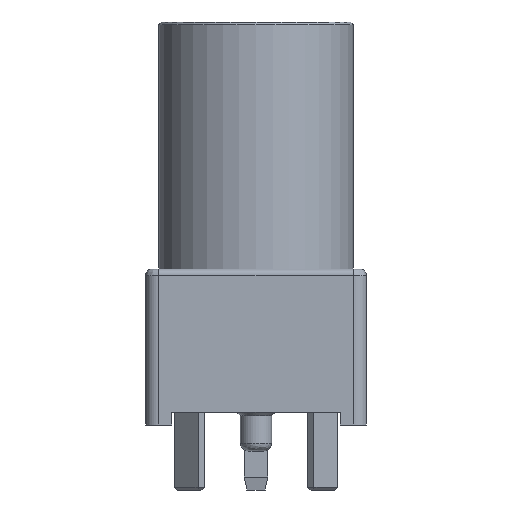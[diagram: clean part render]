
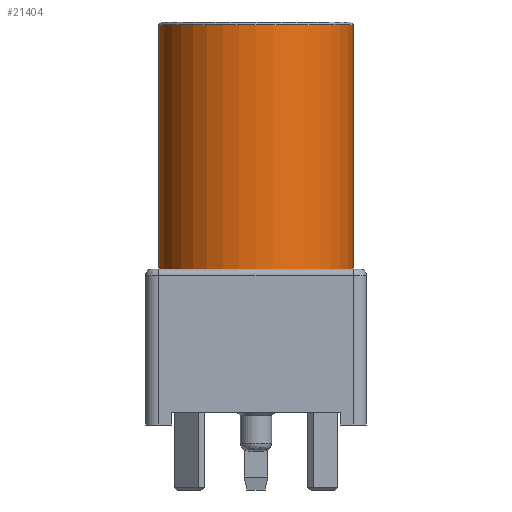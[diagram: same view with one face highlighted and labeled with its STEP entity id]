
A CAD part, front view. The second image highlights one B-rep face of the part: STEP entity #21404.
In plain terms, the highlighted cylindrical face has radius 3.75 mm (diameter 7.5 mm), a partial arc.
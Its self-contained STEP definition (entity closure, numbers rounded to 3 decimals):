
#176=CARTESIAN_POINT('',(0.,0.,6.));
#177=DIRECTION('',(0.,0.,1.));
#178=DIRECTION('',(-1.,0.,0.));
#179=AXIS2_PLACEMENT_3D('',#176,#177,#178);
#7092=CARTESIAN_POINT('',(0.,0.,15.4));
#7093=DIRECTION('',(0.,0.,1.));
#7094=DIRECTION('',(-1.,0.,0.));
#7095=AXIS2_PLACEMENT_3D('',#7092,#7093,#7094);
#7097=DIRECTION('',(0.,0.,-1.));
#7098=VECTOR('',#7097,9.4);
#7099=CARTESIAN_POINT('',(3.75,0.,15.4));
#7100=LINE('',#7099,#7098);
#7101=DIRECTION('',(0.,0.,1.));
#7102=VECTOR('',#7101,9.4);
#7103=CARTESIAN_POINT('',(-3.75,0.,6.));
#7104=LINE('',#7103,#7102);
#7377=CARTESIAN_POINT('',(-3.75,0.,6.));
#7378=VERTEX_POINT('',#7377);
#7379=CARTESIAN_POINT('',(3.75,0.,6.));
#7380=VERTEX_POINT('',#7379);
#9124=CARTESIAN_POINT('',(-3.75,0.,
15.4));
#9125=VERTEX_POINT('',#9124);
#9126=CARTESIAN_POINT('',(3.75,0.,15.4));
#9127=VERTEX_POINT('',#9126);
#21393=CARTESIAN_POINT('',(0.,0.,10.7));
#21394=DIRECTION('',(0.,0.,1.));
#21395=DIRECTION('',(-1.,0.,0.));
#21396=AXIS2_PLACEMENT_3D('',#21393,#21394,#21395);
#21397=CYLINDRICAL_SURFACE('',#21396,3.75);
#21398=ORIENTED_EDGE('',*,*,#21333,.T.);
#21399=ORIENTED_EDGE('',*,*,#21381,.T.);
#21400=ORIENTED_EDGE('',*,*,#9179,.F.);
#21401=ORIENTED_EDGE('',*,*,#21373,.T.);
#21402=EDGE_LOOP('',(#21398,#21399,#21400,#21401));
#21403=FACE_OUTER_BOUND('',#21402,.F.);
#180=CIRCLE('',#179,3.75);
#7096=CIRCLE('',#7095,3.75);
#9179=EDGE_CURVE('',#7378,#7380,#180,.T.);
#21333=EDGE_CURVE('',#9125,#9127,#7096,.T.);
#21373=EDGE_CURVE('',#7378,#9125,#7104,.T.);
#21381=EDGE_CURVE('',#9127,#7380,#7100,.T.);
#21404=ADVANCED_FACE('',(#21403),#21397,.T.);
